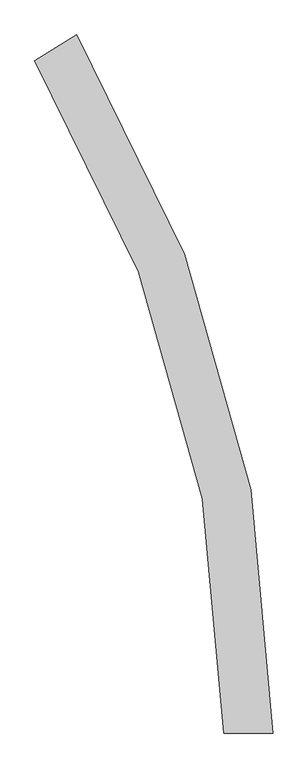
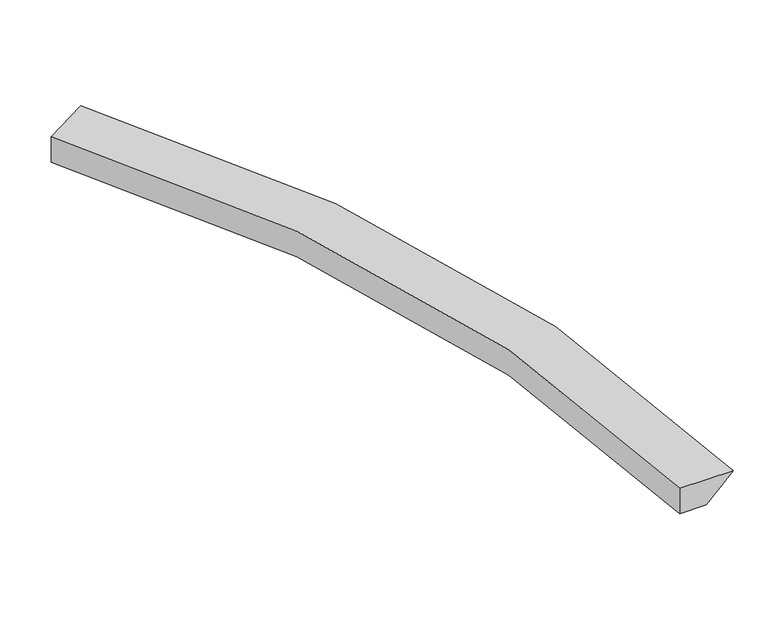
"""IFC4 building model written with IfcOpenShell, lengths in millimetres: proxy geometry, Gousset traverse courbe ext ou int : Gousset traverse courbe - côté intérieur."""

from ifc_helpers import new_model, si_unit, frame, origin, place, context, project, spatial, polyline, circle_curve, source, transform, mapped, element, save
from ifc_brep_helpers import plane_surface, revolved_surface, advanced_brep


def generic_models_11dc793a(model_context):
    return source(origin(), model_context, "Body", "AdvancedBrep", [
        advanced_brep(
        [(18325.0, 0.0, -350.0), (18325.0, 0.0, -700.0), (18675.0, 0.0, -700.0), (19025.0, 0.0, -350.0), (15634.3154742, 9558.9646225, -350.0), (15634.3154742, 9558.9646225, -700.0), (15932.924501, 9741.5369345, -700.0), (16231.5335278, 9924.1092466, -350.0)],
        [
            (0, 1),
            (1, 2),
            (2, 3),
            (3, 0),
            (0, 4, circle_curve(frame((0.0, 0.0, -350.0), z_axis=(0.0, 0.0, 1.0), x_axis=(1.0, 0.0, 0.0)), 18325.0)),
            (4, 5),
            (5, 1, circle_curve(frame((0.0, 0.0, -700.0), z_axis=(0.0, 0.0, -1.0), x_axis=(1.0, 0.0, 0.0)), 18325.0)),
            (5, 6),
            (6, 2, circle_curve(frame((0.0, 0.0, -700.0), z_axis=(0.0, 0.0, -1.0), x_axis=(1.0, 0.0, 0.0)), 18675.0)),
            (6, 7),
            (7, 3, circle_curve(frame((0.0, 0.0, -350.0), z_axis=(0.0, 0.0, -1.0), x_axis=(1.0, 0.0, 0.0)), 19025.0)),
            (7, 4),
        ],
        [
            plane_surface(frame((0.0, 0.0, 1500.0), z_axis=(0.0, -1.0, 0.0), x_axis=(1.0, 0.0, 0.0))),
            revolved_surface(polyline([(18325.0, 0.0, -350.0), (18325.0, 0.0, -700.0)]), (0.0, 0.0, 1500.0), (0.0, 0.0, 1.0)),
            plane_surface(frame((0.0, 0.0, -700.0), z_axis=(0.0, 0.0, -1.0), x_axis=(1.0, 0.0, 0.0))),
            revolved_surface(polyline([(18675.0, 0.0, -700.0), (19025.0, 0.0, -350.0)]), (0.0, 0.0, 1500.0), (0.0, 0.0, 1.0)),
            plane_surface(frame((0.0, 0.0, -350.0), z_axis=(0.0, 0.0, 1.0), x_axis=(1.0, 0.0, 0.0))),
            plane_surface(frame((0.0, 0.0, -350.0), z_axis=(-0.5216351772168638, 0.853168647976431, 0.0), x_axis=(0.0, 0.0, -1.0))),
        ],
        [
            (0, [[1, 2, 3, 4]]),
            (1, [[-1, 5, 6, 7]]),
            (2, [[-2, -7, 8, 9]]),
            (3, [[-3, -9, 10, 11]]),
            (4, [[-4, -11, 12, -5]]),
            (5, [[-6, -12, -10, -8]]),
        ],
    ),
    ])


if __name__ == "__main__":
    model = new_model("IFC4")
    model_context = context("Model", 3, world=origin())
    ifc_project = project(units=[si_unit("LENGTHUNIT", "METRE", prefix="MILLI")], contexts=[model_context])
    site = spatial("IfcSite", under=ifc_project)
    building = spatial("IfcBuilding", under=site)
    placement = place(None, origin())
    generic_models_shape = generic_models_11dc793a(model_context)
    element("IfcBuildingElementProxy", 1, Name="Gousset traverse courbe ext ou int : Gousset traverse courbe - côté intérieur", ObjectType="Gousset traverse courbe ext ou int : Gousset traverse courbe - côté intérieur", at=placement, inside=building, context=model_context, shape_type="MappedRepresentation", body=[
        mapped(generic_models_shape, transform((0.0, 0.0, 0.0), x_axis=(1.0, 0.0, 0.0), y_axis=(0.0, 1.0, 0.0), z_axis=(0.0, 0.0, 1.0))),
    ])
    save(model, "model.ifc")
